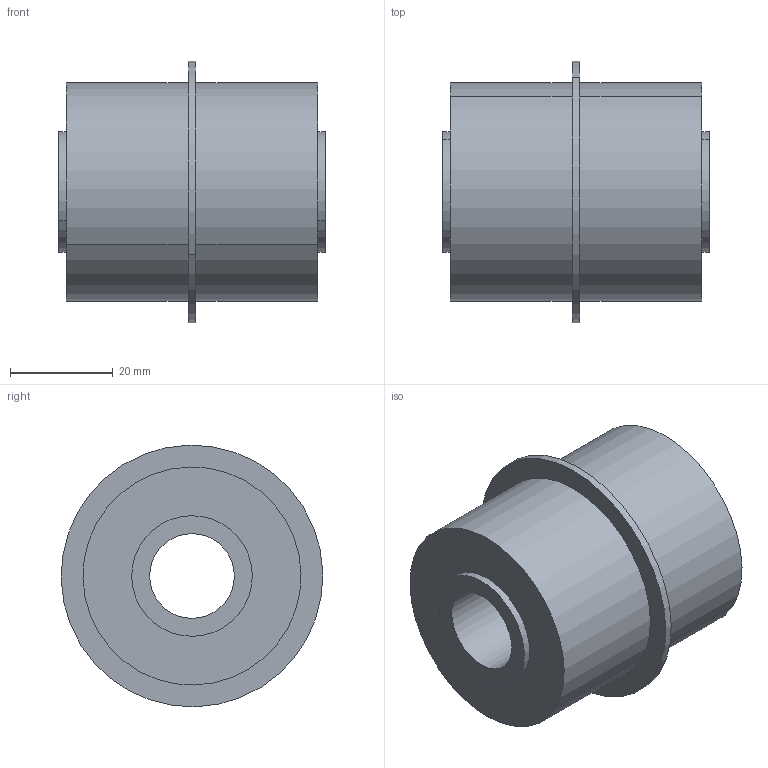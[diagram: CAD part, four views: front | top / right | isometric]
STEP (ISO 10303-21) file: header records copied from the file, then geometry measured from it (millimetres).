
FILE_DESCRIPTION(('CATIA V5 STEP Exchange'),'2;1');
FILE_NAME('C:\Users\ghidonia\Desktop\Rollo\P21001_01.stp','2016-06-09T13:27:13+00:00',('none'),('none'),'Version 5-6 Release 2012','CATIA V5 STEP AP203','none');
FILE_SCHEMA(('CONFIG_CONTROL_DESIGN'));
Length unit declared in the file: millimetre
Products named in the file (1): P21001_01
Bounding box: 52 x 50.99 x 50.99 mm (x, y, z)
Volume: 60631.3 mm3; surface area: 13157.4 mm2
Topology: 1 solids, 1 shells, 18 faces, 36 edges, 24 vertices
Faces by surface type: cylinder 12, plane 6
Entity records: 466 total; most frequent: ORIENTED_EDGE 72, CARTESIAN_POINT 71, DIRECTION 56, EDGE_CURVE 36, AXIS2_PLACEMENT_3D 35, CIRCLE 24, EDGE_LOOP 24, VERTEX_POINT 24
